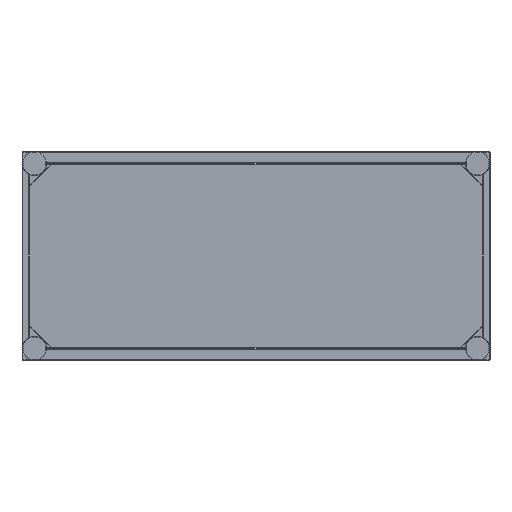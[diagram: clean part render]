
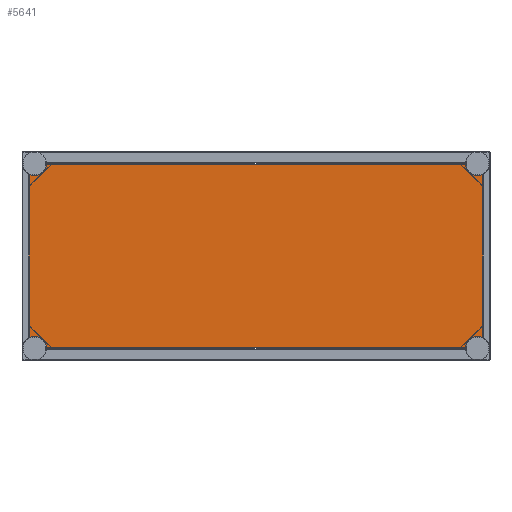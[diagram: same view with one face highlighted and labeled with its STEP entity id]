
A CAD part, front view. The second image highlights one B-rep face of the part: STEP entity #5641.
In plain terms, the highlighted planar face has unit normal (0, -1, 0).
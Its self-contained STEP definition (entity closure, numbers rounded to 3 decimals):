
#5088=CARTESIAN_POINT('',(565.85,-375.,-235.85));
#5089=DIRECTION('',(0.,1.,0.));
#5090=DIRECTION('',(-1.,0.,0.027));
#5091=AXIS2_PLACEMENT_3D('',#5088,#5089,#5090);
#5163=CARTESIAN_POINT('',(565.85,-375.,235.85));
#5164=DIRECTION('',(0.,1.,0.));
#5165=DIRECTION('',(0.422,0.,-0.907));
#5166=AXIS2_PLACEMENT_3D('',#5163,#5164,#5165);
#5244=DIRECTION('',(-1.,0.,0.));
#5245=VECTOR('',#5244,1069.423);
#5246=CARTESIAN_POINT('',(534.712,-375.,235.));
#5247=LINE('',#5246,#5245);
#5248=DIRECTION('',(0.,0.,1.));
#5249=VECTOR('',#5248,415.223);
#5250=CARTESIAN_POINT('',(579.,-375.,-207.612));
#5251=LINE('',#5250,#5249);
#5252=DIRECTION('',(1.,0.,0.));
#5253=VECTOR('',#5252,1069.423);
#5254=CARTESIAN_POINT('',(-534.712,-375.,-235.));
#5255=LINE('',#5254,#5253);
#5256=DIRECTION('',(0.,0.,-1.));
#5257=VECTOR('',#5256,415.223);
#5258=CARTESIAN_POINT('',(-579.,-375.,207.612));
#5259=LINE('',#5258,#5257);
#5282=CARTESIAN_POINT('',(-565.85,-375.,235.85));
#5283=DIRECTION('',(0.,1.,0.));
#5284=DIRECTION('',(1.,0.,-0.027));
#5285=AXIS2_PLACEMENT_3D('',#5282,#5283,#5284);
#5303=CARTESIAN_POINT('',(-565.85,-375.,-235.85));
#5304=DIRECTION('',(0.,1.,0.));
#5305=DIRECTION('',(-0.422,0.,0.907));
#5306=AXIS2_PLACEMENT_3D('',#5303,#5304,#5305);
#5402=CARTESIAN_POINT('',(-534.712,-375.,235.));
#5403=CARTESIAN_POINT('',(-579.,-375.,207.612));
#5404=VERTEX_POINT('',#5402);
#5405=VERTEX_POINT('',#5403);
#5406=CARTESIAN_POINT('',(579.,-375.,207.612));
#5407=CARTESIAN_POINT('',(534.712,-375.,235.));
#5408=VERTEX_POINT('',#5406);
#5409=VERTEX_POINT('',#5407);
#5410=CARTESIAN_POINT('',(534.712,-375.,-235.));
#5411=CARTESIAN_POINT('',(579.,-375.,-207.612));
#5412=VERTEX_POINT('',#5410);
#5413=VERTEX_POINT('',#5411);
#5414=CARTESIAN_POINT('',(-579.,-375.,-207.612));
#5415=CARTESIAN_POINT('',(-534.712,-375.,-235.));
#5416=VERTEX_POINT('',#5414);
#5417=VERTEX_POINT('',#5415);
#5621=CARTESIAN_POINT('',(0.,-375.,0.));
#5622=DIRECTION('',(0.,-1.,0.));
#5623=DIRECTION('',(-1.,0.,0.));
#5624=AXIS2_PLACEMENT_3D('',#5621,#5622,#5623);
#5625=PLANE('',#5624);
#5627=ORIENTED_EDGE('',*,*,#5626,.F.);
#5629=ORIENTED_EDGE('',*,*,#5628,.F.);
#5630=ORIENTED_EDGE('',*,*,#5541,.F.);
#5631=ORIENTED_EDGE('',*,*,#5615,.F.);
#5632=ORIENTED_EDGE('',*,*,#5466,.F.);
#5634=ORIENTED_EDGE('',*,*,#5633,.F.);
#5636=ORIENTED_EDGE('',*,*,#5635,.F.);
#5638=ORIENTED_EDGE('',*,*,#5637,.F.);
#5639=EDGE_LOOP('',(#5627,#5629,#5630,#5631,#5632,#5634,#5636,#5638));
#5640=FACE_OUTER_BOUND('',#5639,.F.);
#5092=CIRCLE('',#5091,31.15);
#5167=CIRCLE('',#5166,31.15);
#5286=CIRCLE('',#5285,31.15);
#5307=CIRCLE('',#5306,31.15);
#5466=EDGE_CURVE('',#5412,#5413,#5092,.T.);
#5541=EDGE_CURVE('',#5408,#5409,#5167,.T.);
#5615=EDGE_CURVE('',#5413,#5408,#5251,.T.);
#5626=EDGE_CURVE('',#5404,#5405,#5286,.T.);
#5628=EDGE_CURVE('',#5409,#5404,#5247,.T.);
#5633=EDGE_CURVE('',#5417,#5412,#5255,.T.);
#5635=EDGE_CURVE('',#5416,#5417,#5307,.T.);
#5637=EDGE_CURVE('',#5405,#5416,#5259,.T.);
#5641=ADVANCED_FACE('',(#5640),#5625,.T.);
